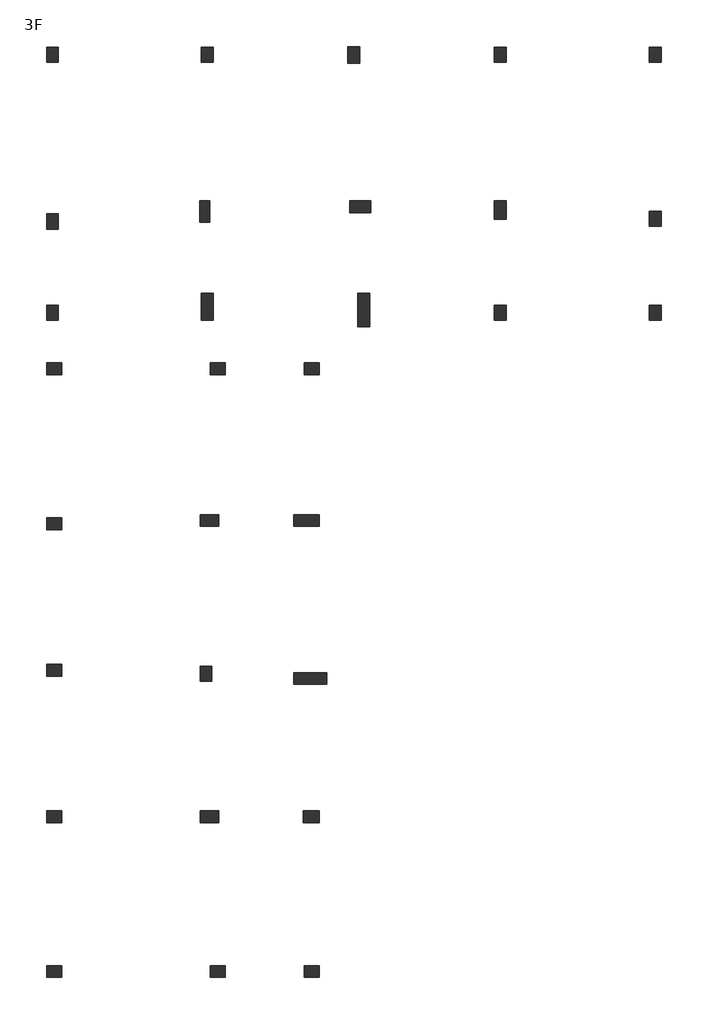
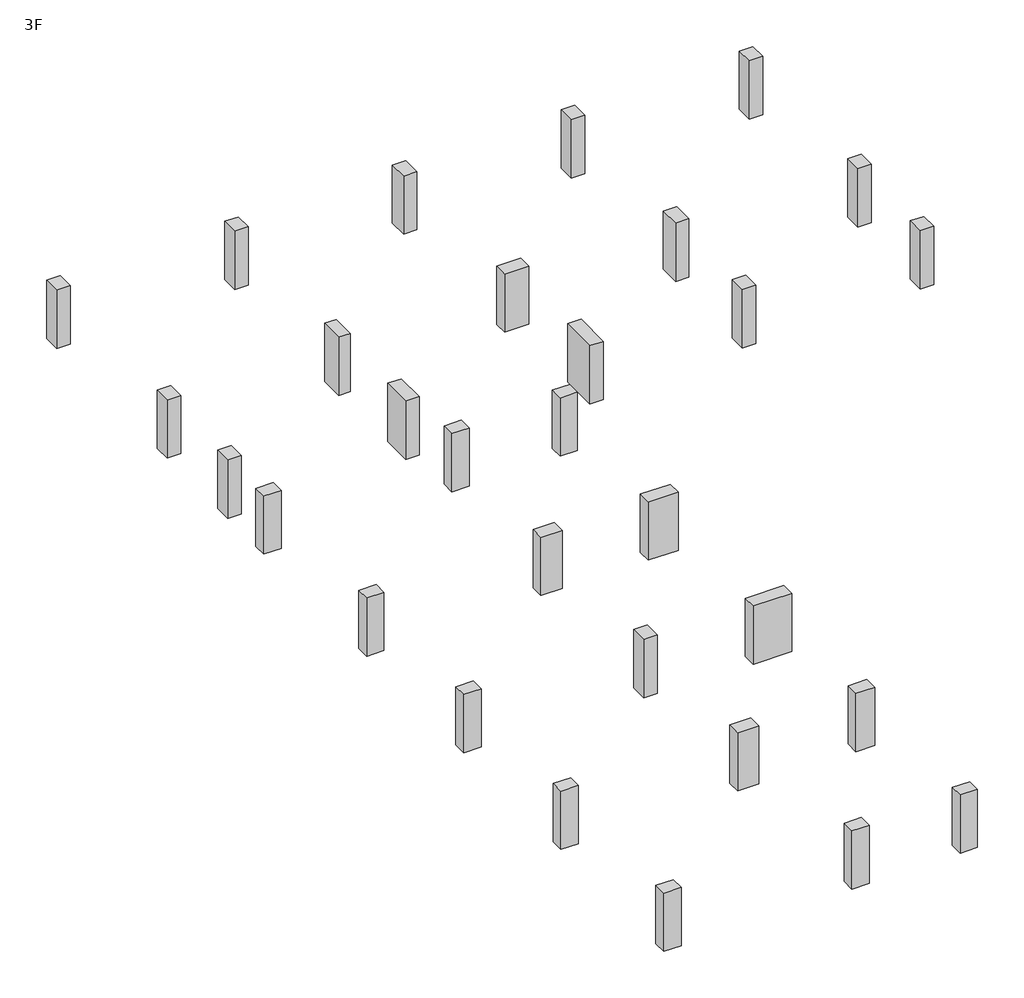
# One storey: 30 columns.
"""IFC4 building model written with IfcOpenShell, lengths in millimetres."""

from ifc_helpers import new_model, si_unit, origin, place, context, project, spatial, transform, mapped, element, save
from components import column_54469858, column_6a8302aa, column_993dc5b7, column_4e9181b0, column_e361dc68, column_dbabbef8, column_64389fab, column_531a2177, column_948f975f

model = new_model("IFC4")

# Units and contexts
model_context = context("Model", 3, world=origin())
ifc_project = project(units=[si_unit("LENGTHUNIT", "METRE", prefix="MILLI")], contexts=[model_context])

# Site, building, storey
site = spatial("IfcSite", under=ifc_project)
building = spatial("IfcBuilding", under=site)
storey = spatial("IfcBuildingStorey", under=building, Name="3F", Elevation=8000.0)

# Columns
placement = place(None, origin())
column_shape = column_54469858(model_context)
element("IfcColumn", 1, ObjectType="M_混凝土-矩形-柱 : RC柱70*90", at=placement, inside=storey, context=model_context, shape_type="MappedRepresentation", body=[
    mapped(column_shape, transform((-11260.4397891, 36908.3375722, 0.0), x_axis=(1.0, 0.0, 0.0), y_axis=(0.0, 1.0, 0.0), z_axis=(0.0, 0.0, 1.0))),
])
element("IfcColumn", 2, ObjectType="M_混凝土-矩形-柱 : RC柱70*90", at=placement, inside=storey, context=model_context, shape_type="MappedRepresentation", body=[
    mapped(column_shape, transform((-11260.4397891, 26958.3375722, 0.0), x_axis=(1.0, 0.0, 0.0), y_axis=(0.0, 1.0, 0.0), z_axis=(0.0, 0.0, 1.0))),
])
element("IfcColumn", 3, ObjectType="M_混凝土-矩形-柱 : RC柱70*90", at=placement, inside=storey, context=model_context, shape_type="MappedRepresentation", body=[
    mapped(column_shape, transform((-11260.4397891, 21508.3375722, 0.0), x_axis=(1.0, 0.0, 0.0), y_axis=(0.0, 1.0, 0.0), z_axis=(0.0, 0.0, 1.0))),
])
element("IfcColumn", 4, ObjectType="M_混凝土-矩形-柱 : RC柱70*90", at=placement, inside=storey, context=model_context, shape_type="MappedRepresentation", body=[
    mapped(column_shape, transform((-2010.4397891, 36908.3375722, 0.0), x_axis=(1.0, 0.0, 0.0), y_axis=(0.0, 1.0, 0.0), z_axis=(0.0, 0.0, 1.0))),
])
element("IfcColumn", 5, ObjectType="M_混凝土-矩形-柱 : RC柱70*90", at=placement, inside=storey, context=model_context, shape_type="MappedRepresentation", body=[
    mapped(column_shape, transform((15489.5602109, 36908.3375722, 0.0), x_axis=(1.0, 0.0, 0.0), y_axis=(0.0, 1.0, 0.0), z_axis=(0.0, 0.0, 1.0))),
])
element("IfcColumn", 6, ObjectType="M_混凝土-矩形-柱 : RC柱70*90", at=placement, inside=storey, context=model_context, shape_type="MappedRepresentation", body=[
    mapped(column_shape, transform((24739.5602109, 36908.3375722, 0.0), x_axis=(1.0, 0.0, 0.0), y_axis=(0.0, 1.0, 0.0), z_axis=(0.0, 0.0, 1.0))),
])
element("IfcColumn", 7, ObjectType="M_混凝土-矩形-柱 : RC柱70*90", at=placement, inside=storey, context=model_context, shape_type="MappedRepresentation", body=[
    mapped(column_shape, transform((24739.5602109, 27133.3375722, 0.0), x_axis=(1.0, 0.0, 0.0), y_axis=(0.0, 1.0, 0.0), z_axis=(0.0, 0.0, 1.0))),
])
element("IfcColumn", 8, ObjectType="M_混凝土-矩形-柱 : RC柱70*90", at=placement, inside=storey, context=model_context, shape_type="MappedRepresentation", body=[
    mapped(column_shape, transform((24739.5602109, 21508.3375722, 0.0), x_axis=(1.0, 0.0, 0.0), y_axis=(0.0, 1.0, 0.0), z_axis=(0.0, 0.0, 1.0))),
])
element("IfcColumn", 9, ObjectType="M_混凝土-矩形-柱 : RC柱70*90", at=placement, inside=storey, context=model_context, shape_type="MappedRepresentation", body=[
    mapped(column_shape, transform((15489.5602109, 21508.3375722, 0.0), x_axis=(1.0, 0.0, 0.0), y_axis=(0.0, 1.0, 0.0), z_axis=(0.0, 0.0, 1.0))),
])
element("IfcColumn", 10, ObjectType="M_混凝土-矩形-柱 : RC柱70*90", at=placement, inside=storey, context=model_context, shape_type="MappedRepresentation", body=[
    mapped(column_shape, transform((-11160.4397891, 18158.337572, 0.0), x_axis=(0.0, 1.0000000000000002, 0.0), y_axis=(-1.0000000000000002, 0.0, 0.0), z_axis=(0.0, 0.0, 1.0))),
])
element("IfcColumn", 11, ObjectType="M_混凝土-矩形-柱 : RC柱70*90", at=placement, inside=storey, context=model_context, shape_type="MappedRepresentation", body=[
    mapped(column_shape, transform((-1385.4397891, 18158.337572, 0.0), x_axis=(0.0, 1.0000000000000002, 0.0), y_axis=(-1.0000000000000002, 0.0, 0.0), z_axis=(0.0, 0.0, 1.0))),
])
element("IfcColumn", 12, ObjectType="M_混凝土-矩形-柱 : RC柱70*90", at=placement, inside=storey, context=model_context, shape_type="MappedRepresentation", body=[
    mapped(column_shape, transform((4239.5602109, 18158.337572, 0.0), x_axis=(0.0, 1.0000000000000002, 0.0), y_axis=(-1.0000000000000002, 0.0, 0.0), z_axis=(0.0, 0.0, 1.0))),
])
element("IfcColumn", 13, ObjectType="M_混凝土-矩形-柱 : RC柱70*90", at=placement, inside=storey, context=model_context, shape_type="MappedRepresentation", body=[
    mapped(column_shape, transform((-11160.4397891, 8908.337572, 0.0), x_axis=(0.0, 1.0000000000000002, 0.0), y_axis=(-1.0000000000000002, 0.0, 0.0), z_axis=(0.0, 0.0, 1.0))),
])
element("IfcColumn", 14, ObjectType="M_混凝土-矩形-柱 : RC柱70*90", at=placement, inside=storey, context=model_context, shape_type="MappedRepresentation", body=[
    mapped(column_shape, transform((-11160.4397891, 158.337572, 0.0), x_axis=(0.0, 1.0000000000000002, 0.0), y_axis=(-1.0000000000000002, 0.0, 0.0), z_axis=(0.0, 0.0, 1.0))),
])
element("IfcColumn", 15, ObjectType="M_混凝土-矩形-柱 : RC柱70*90", at=placement, inside=storey, context=model_context, shape_type="MappedRepresentation", body=[
    mapped(column_shape, transform((-2085.4397891, -41.662428, 0.0), x_axis=(-1.0000000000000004, 0.0, 0.0), y_axis=(0.0, -1.0000000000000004, 0.0), z_axis=(0.0, 0.0, 1.0))),
])
element("IfcColumn", 16, ObjectType="M_混凝土-矩形-柱 : RC柱70*90", at=placement, inside=storey, context=model_context, shape_type="MappedRepresentation", body=[
    mapped(column_shape, transform((-11160.4397891, -8591.662428, 0.0), x_axis=(0.0, 1.0000000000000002, 0.0), y_axis=(-1.0000000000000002, 0.0, 0.0), z_axis=(0.0, 0.0, 1.0))),
])
element("IfcColumn", 17, ObjectType="M_混凝土-矩形-柱 : RC柱70*90", at=placement, inside=storey, context=model_context, shape_type="MappedRepresentation", body=[
    mapped(column_shape, transform((-11160.4397891, -17841.662428, 0.0), x_axis=(0.0, 1.0000000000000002, 0.0), y_axis=(-1.0000000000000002, 0.0, 0.0), z_axis=(0.0, 0.0, 1.0))),
])
element("IfcColumn", 18, ObjectType="M_混凝土-矩形-柱 : RC柱70*90", at=placement, inside=storey, context=model_context, shape_type="MappedRepresentation", body=[
    mapped(column_shape, transform((-1385.4397891, -17841.662428, 0.0), x_axis=(0.0, 1.0000000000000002, 0.0), y_axis=(-1.0000000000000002, 0.0, 0.0), z_axis=(0.0, 0.0, 1.0))),
])
element("IfcColumn", 19, ObjectType="M_混凝土-矩形-柱 : RC柱70*90", at=placement, inside=storey, context=model_context, shape_type="MappedRepresentation", body=[
    mapped(column_shape, transform((4239.5602109, -17841.662428, 0.0), x_axis=(0.0, 1.0000000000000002, 0.0), y_axis=(-1.0000000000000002, 0.0, 0.0), z_axis=(0.0, 0.0, 1.0))),
])
column_2_shape = column_6a8302aa(model_context)
element("IfcColumn", 20, ObjectType="M_混凝土-矩形-柱 : RC柱70*100", at=placement, inside=storey, context=model_context, shape_type="MappedRepresentation", body=[
    mapped(column_2_shape, transform((6739.5602109, 36908.3375722, 0.0), x_axis=(1.0, 0.0, 0.0), y_axis=(0.0, 1.0, 0.0), z_axis=(0.0, 0.0, 1.0))),
])
column_3_shape = column_993dc5b7(model_context)
element("IfcColumn", 21, ObjectType="M_混凝土-矩形-柱 : RC柱70*110", at=placement, inside=storey, context=model_context, shape_type="MappedRepresentation", body=[
    mapped(column_3_shape, transform((15489.5602109, 27633.3375722, 0.0), x_axis=(1.0, 0.0, 0.0), y_axis=(0.0, 1.0, 0.0), z_axis=(0.0, 0.0, 1.0))),
])
element("IfcColumn", 22, ObjectType="M_混凝土-矩形-柱 : RC柱70*110", at=placement, inside=storey, context=model_context, shape_type="MappedRepresentation", body=[
    mapped(column_3_shape, transform((-1885.4397891, 9108.337572, 0.0), x_axis=(0.0, 1.0000000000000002, 0.0), y_axis=(-1.0000000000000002, 0.0, 0.0), z_axis=(0.0, 0.0, 1.0))),
])
element("IfcColumn", 23, ObjectType="M_混凝土-矩形-柱 : RC柱70*110", at=placement, inside=storey, context=model_context, shape_type="MappedRepresentation", body=[
    mapped(column_3_shape, transform((-1885.4397891, -8591.662428, 0.0), x_axis=(0.0, 1.0000000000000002, 0.0), y_axis=(-1.0000000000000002, 0.0, 0.0), z_axis=(0.0, 0.0, 1.0))),
])
column_4_shape = column_4e9181b0(model_context)
element("IfcColumn", 24, ObjectType="M_混凝土-矩形-柱 : RC柱70*125", at=placement, inside=storey, context=model_context, shape_type="MappedRepresentation", body=[
    mapped(column_4_shape, transform((7114.5808405, 27833.3375722, 0.0), x_axis=(0.0, 1.0000000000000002, 0.0), y_axis=(-1.0000000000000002, 0.0, 0.0), z_axis=(0.0, 0.0, 1.0))),
])
column_5_shape = column_e361dc68(model_context)
element("IfcColumn", 25, ObjectType="M_混凝土-矩形-柱 : RC柱60*127.5", at=placement, inside=storey, context=model_context, shape_type="MappedRepresentation", body=[
    mapped(column_5_shape, transform((-2160.4397891, 27545.8375722, 0.0), x_axis=(-1.0000000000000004, 0.0, 0.0), y_axis=(0.0, -1.0000000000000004, 0.0), z_axis=(0.0, 0.0, 1.0))),
])
column_6_shape = column_dbabbef8(model_context)
element("IfcColumn", 26, ObjectType="M_混凝土-矩形-柱 : RC柱70*162.5", at=placement, inside=storey, context=model_context, shape_type="MappedRepresentation", body=[
    mapped(column_6_shape, transform((-2010.4397891, 21870.8375722, 0.0), x_axis=(-1.0000000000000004, 0.0, 0.0), y_axis=(0.0, -1.0000000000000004, 0.0), z_axis=(0.0, 0.0, 1.0))),
])
column_7_shape = column_64389fab(model_context)
element("IfcColumn", 27, ObjectType="M_混凝土-矩形-柱 : RC柱70*200", at=placement, inside=storey, context=model_context, shape_type="MappedRepresentation", body=[
    mapped(column_7_shape, transform((7339.5602109, 21683.3375722, 0.0), x_axis=(-1.0000000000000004, 0.0, 0.0), y_axis=(0.0, -1.0000000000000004, 0.0), z_axis=(0.0, 0.0, 1.0))),
])
element("IfcColumn", 28, ObjectType="M_混凝土-矩形-柱 : RC柱70*200", at=placement, inside=storey, context=model_context, shape_type="MappedRepresentation", body=[
    mapped(column_7_shape, transform((4139.5602109, -341.662428, 0.0), x_axis=(0.0, 1.0000000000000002, 0.0), y_axis=(-1.0000000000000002, 0.0, 0.0), z_axis=(0.0, 0.0, 1.0))),
])
column_8_shape = column_531a2177(model_context)
element("IfcColumn", 29, ObjectType="M_混凝土-矩形-柱 : RC柱70*155", at=placement, inside=storey, context=model_context, shape_type="MappedRepresentation", body=[
    mapped(column_8_shape, transform((3914.5602109, 9108.337572, 0.0), x_axis=(0.0, 1.0000000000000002, 0.0), y_axis=(-1.0000000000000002, 0.0, 0.0), z_axis=(0.0, 0.0, 1.0))),
])
column_9_shape = column_948f975f(model_context)
element("IfcColumn", 30, ObjectType="M_混凝土-矩形-柱 : RC柱70*97.5", at=placement, inside=storey, context=model_context, shape_type="MappedRepresentation", body=[
    mapped(column_9_shape, transform((4202.0602109, -8591.662428, 0.0), x_axis=(0.0, 1.0000000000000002, 0.0), y_axis=(-1.0000000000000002, 0.0, 0.0), z_axis=(0.0, 0.0, 1.0))),
])

save(model, "model.ifc")
